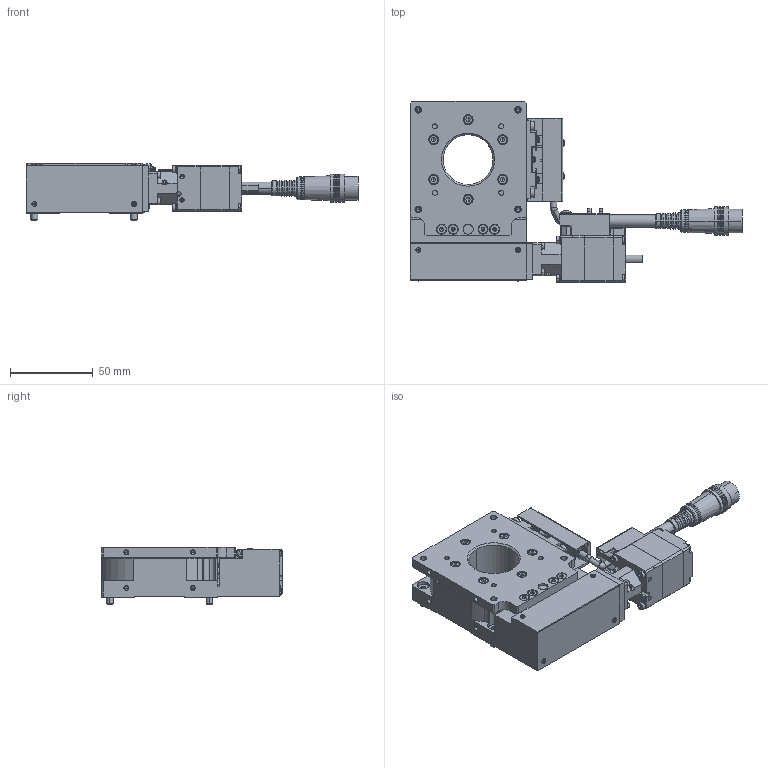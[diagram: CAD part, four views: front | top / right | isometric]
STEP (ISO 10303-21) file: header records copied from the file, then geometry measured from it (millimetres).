
FILE_DESCRIPTION (( 'STEP AP203' ), '1' );
FILE_NAME ('RA07A-T02.STEP', '2019-02-20T00:54:12', ( '' ), ( '' ), 'SwSTEP 2.0', 'SolidWorks 2018', '' );
FILE_SCHEMA (( 'CONFIG_CONTROL_DESIGN' ));
Length unit declared in the file: millimetre
Products named in the file (14): bolt; bolt-Part-1-1; table; bolt-2; base-Part-1; bolt-3; bolt-Part-1-3; base-Part-2; bolt-Part-1-2; base; RA07A-T02; base-Part-3; bolt-Part-1; bolt-1
Assembly tree (13 placements, depth 3):
  RA07A-T02
    base
      base-Part-1
      base-Part-2
      base-Part-3
    bolt
      bolt-Part-1
    bolt-1
      bolt-Part-1-1
    bolt-2
      bolt-Part-1-2
    bolt-3
      bolt-Part-1-3
    table
Bounding box: 200 x 109 x 34.5 mm (x, y, z)
Volume: 239194.2 mm3; surface area: 76041.2 mm2
Topology: 8 solids, 8 shells, 2052 faces, 5084 edges, 3115 vertices
Faces by surface type: plane 1222, cylinder 438, cone 331, torus 38, sphere 23
Entity records: 62387 total; most frequent: CARTESIAN_POINT 11634, DIRECTION 10602, ORIENTED_EDGE 10044, EDGE_CURVE 5022, AXIS2_PLACEMENT_3D 3782, VERTEX_POINT 3112, VECTOR 3038, LINE 3038
